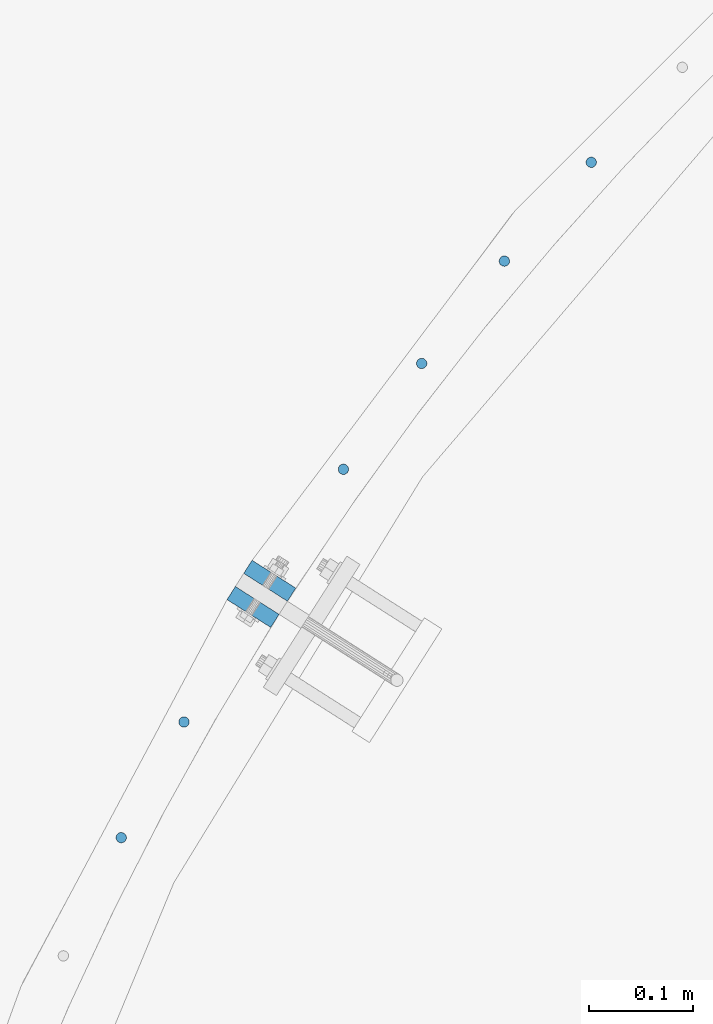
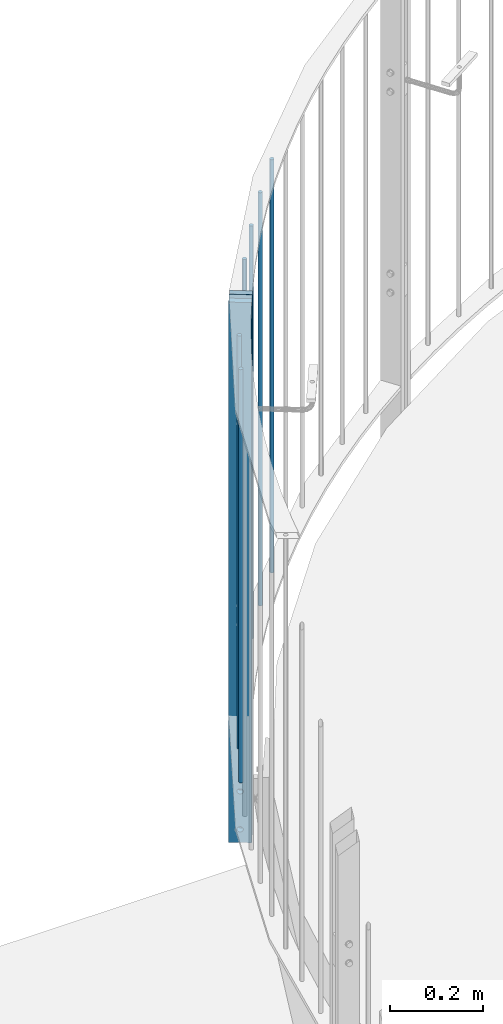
# One storey, part 63 of 296: 8 columns, 12 openings.
"""IFC2X3 building model written with IfcOpenShell, lengths in millimetres."""

from ifc_helpers import new_model, entity, si_unit, converted_unit, frame, frame_2d, origin, origin_with_axes, origin_2d, place, context, project, spatial, rectangle, circle, extrude, material, element, save


model = new_model("IFC2X3")

# Units and contexts
model_context = context("Model", 3, precision=1e-09, world=origin_with_axes())
ifc_project = project(units=[si_unit("LENGTHUNIT", "METRE", prefix="MILLI"), si_unit("AREAUNIT", "SQUARE_METRE"), si_unit("VOLUMEUNIT", "CUBIC_METRE"), converted_unit("PLANEANGLEUNIT", "DEGREE", entity("IfcPlaneAngleMeasure", 0.01745329), si_unit("PLANEANGLEUNIT", "RADIAN"), dimensions=[0, 0, 0, 0, 0, 0, 0])], contexts=[model_context])

# Site, building, storey
site_placement = place(None, origin_with_axes())
site = spatial("IfcSite", under=ifc_project, at=site_placement, Name="TZD-S?d | Treppenhausgel?nder", CompositionType="ELEMENT")
building_placement = place(site_placement, origin_with_axes())
building = spatial("IfcBuilding", under=site, at=building_placement, Name="Struktur 1", CompositionType="ELEMENT")
storey_placement = place(building_placement, origin_with_axes())
storey = spatial("IfcBuildingStorey", under=building, at=storey_placement, Name="Default Storey", CompositionType="ELEMENT", Elevation=0.0)

# Columns
ifc_material = material(Name="S235JR")
for number, where, z_axis, x_axis in (
    (1, (268.009652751, 1271.305762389, 2450.0), (0.0, 0.0, 1.0), (0.0, 1.0, 0.0)),
    (2, (328.618671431, 1382.861709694, 2450.0), (0.0, 0.0, 1.0), (0.0, 1.0, 0.0)),
    (3, (482.404589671, 1626.727106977, 2450.0), (0.0, 0.0, 1.0), (0.422618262, 0.906307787, 0.0)),
    (4, (557.894135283, 1728.803113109, 2450.0), (0.0, 0.0, 1.0), (0.422618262, 0.906307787, 0.0)),
    (5, (637.648869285, 1827.582488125, 2450.0), (0.0, 0.0, 1.0), (0.422618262, 0.906307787, 0.0)),
    (6, (721.525001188, 1922.887141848, 2450.0), (0.0, 0.0, 1.0), (0.422618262, 0.906307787, 0.0)),
):
    element("IfcColumn", number, at=place(None, frame(where, z_axis=z_axis, x_axis=x_axis)), inside=storey, material=ifc_material, Name="-", ObjectType="-", context=model_context, shape_type="SweptSolid", body=[
        extrude(circle(Radius=5.0, at=origin_2d()), origin(), (0.0, 0.0, 1.0), 1090.0),
    ])

# Column, openings
column_1_placement = place(None, frame((411.319071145, 1519.176700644, 2115.001), z_axis=(0.0, 0.0, -1.0), x_axis=(-0.537299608, -0.843391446, 0.0)))
column_1 = element("IfcColumn", 7, at=column_1_placement, inside=storey, material=ifc_material, Name="-", ObjectType="-", context=model_context, shape_type="SweptSolid", body=[
    extrude(rectangle(XDim=15.0, YDim=50.0, at=origin_2d()), origin(), (0.0, 0.0, -1.0), 1424.999),
])
opening_1_placement = place(column_1_placement, frame((-8.0, 0.0, -1129.999999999), z_axis=(1.0, 0.0, 0.0), x_axis=(0.0, -1.0, 0.0)))
element("IfcOpeningElement", 8, at=opening_1_placement, cuts=column_1, ObjectType="Opening", context=model_context, shape_type="SweptSolid", body=[
    extrude(circle(Radius=5.001, at=frame_2d((0.0, 25.0), x_axis=(1.0, 0.0))), origin(), (0.0, 0.0, 1.0), 16.0),
])
opening_2_placement = place(column_1_placement, frame((-8.0, 0.0, -1129.999999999), z_axis=(1.0, 0.0, 0.0), x_axis=(0.0, -1.0, 0.0)))
element("IfcOpeningElement", 9, at=opening_2_placement, cuts=column_1, ObjectType="Opening", context=model_context, shape_type="SweptSolid", body=[
    extrude(circle(Radius=5.001, at=frame_2d((0.0, -25.0), x_axis=(1.0, 0.0))), origin(), (0.0, 0.0, 1.0), 16.0),
])
opening_3_placement = place(column_1_placement, frame((-8.0, 0.0, -599.999999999), z_axis=(1.0, 0.0, 0.0), x_axis=(0.0, -1.0, 0.0)))
element("IfcOpeningElement", 10, at=opening_3_placement, cuts=column_1, ObjectType="Opening", context=model_context, shape_type="SweptSolid", body=[
    extrude(circle(Radius=5.001, at=frame_2d((0.0, 25.0), x_axis=(1.0, 0.0))), origin(), (0.0, 0.0, 1.0), 16.0),
])
opening_4_placement = place(column_1_placement, frame((-8.0, 0.0, -599.999999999), z_axis=(1.0, 0.0, 0.0), x_axis=(0.0, -1.0, 0.0)))
element("IfcOpeningElement", 11, at=opening_4_placement, cuts=column_1, ObjectType="Opening", context=model_context, shape_type="SweptSolid", body=[
    extrude(circle(Radius=5.001, at=frame_2d((0.0, -25.0), x_axis=(1.0, 0.0))), origin(), (0.0, 0.0, 1.0), 16.0),
])
opening_5_placement = place(column_1_placement, frame((-8.0, 0.0, -85.0), z_axis=(1.0, 0.0, 0.0), x_axis=(0.0, -1.0, 0.0)))
element("IfcOpeningElement", 12, at=opening_5_placement, cuts=column_1, ObjectType="Opening", context=model_context, shape_type="SweptSolid", body=[
    extrude(circle(Radius=7.001, at=frame_2d((0.0, 50.0), x_axis=(1.0, 0.0))), origin(), (0.0, 0.0, 1.0), 16.0),
])
opening_6_placement = place(column_1_placement, frame((-8.0, 0.0, -85.0), z_axis=(1.0, 0.0, 0.0), x_axis=(0.0, -1.0, 0.0)))
element("IfcOpeningElement", 13, at=opening_6_placement, cuts=column_1, ObjectType="Opening", context=model_context, shape_type="SweptSolid", body=[
    extrude(circle(Radius=7.001, at=frame_2d((0.0, -50.0), x_axis=(1.0, 0.0))), origin(), (0.0, 0.0, 1.0), 16.0),
])

column_2_placement = place(None, frame((395.200082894, 1493.87495727, 2115.001), z_axis=(0.0, 0.0, 1.0), x_axis=(0.537299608, 0.843391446, 0.0)))
column_2 = element("IfcColumn", 14, at=column_2_placement, inside=storey, material=ifc_material, Name="-", ObjectType="-", context=model_context, shape_type="SweptSolid", body=[
    extrude(rectangle(XDim=15.0, YDim=50.0, at=origin_2d()), origin(), (0.0, 0.0, 1.0), 1424.999),
])
opening_7_placement = place(column_2_placement, frame((8.0, 0.0, 599.999999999), z_axis=(-1.0, 0.0, 0.0), x_axis=(0.0, -1.0, 0.0)))
element("IfcOpeningElement", 15, at=opening_7_placement, cuts=column_2, ObjectType="Opening", context=model_context, shape_type="SweptSolid", body=[
    extrude(circle(Radius=5.001, at=frame_2d((0.0, 25.0), x_axis=(1.0, 0.0))), origin(), (0.0, 0.0, 1.0), 16.0),
])
opening_8_placement = place(column_2_placement, frame((8.0, 0.0, 599.999999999), z_axis=(-1.0, 0.0, 0.0), x_axis=(0.0, -1.0, 0.0)))
element("IfcOpeningElement", 16, at=opening_8_placement, cuts=column_2, ObjectType="Opening", context=model_context, shape_type="SweptSolid", body=[
    extrude(circle(Radius=5.001, at=frame_2d((0.0, -25.0), x_axis=(1.0, 0.0))), origin(), (0.0, 0.0, 1.0), 16.0),
])
opening_9_placement = place(column_2_placement, frame((8.0, 0.0, 1129.999999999), z_axis=(-1.0, 0.0, 0.0), x_axis=(0.0, -1.0, 0.0)))
element("IfcOpeningElement", 17, at=opening_9_placement, cuts=column_2, ObjectType="Opening", context=model_context, shape_type="SweptSolid", body=[
    extrude(circle(Radius=5.001, at=frame_2d((0.0, 25.0), x_axis=(1.0, 0.0))), origin(), (0.0, 0.0, 1.0), 16.0),
])
opening_10_placement = place(column_2_placement, frame((8.0, 0.0, 1129.999999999), z_axis=(-1.0, 0.0, 0.0), x_axis=(0.0, -1.0, 0.0)))
element("IfcOpeningElement", 18, at=opening_10_placement, cuts=column_2, ObjectType="Opening", context=model_context, shape_type="SweptSolid", body=[
    extrude(circle(Radius=5.001, at=frame_2d((0.0, -25.0), x_axis=(1.0, 0.0))), origin(), (0.0, 0.0, 1.0), 16.0),
])
opening_11_placement = place(column_2_placement, frame((8.0, 0.0, 85.0), z_axis=(-1.0, 0.0, 0.0), x_axis=(0.0, -1.0, 0.0)))
element("IfcOpeningElement", 19, at=opening_11_placement, cuts=column_2, ObjectType="Opening", context=model_context, shape_type="SweptSolid", body=[
    extrude(circle(Radius=7.001, at=frame_2d((0.0, 50.0), x_axis=(1.0, 0.0))), origin(), (0.0, 0.0, 1.0), 16.0),
])
opening_12_placement = place(column_2_placement, frame((8.0, 0.0, 85.0), z_axis=(-1.0, 0.0, 0.0), x_axis=(0.0, -1.0, 0.0)))
element("IfcOpeningElement", 20, at=opening_12_placement, cuts=column_2, ObjectType="Opening", context=model_context, shape_type="SweptSolid", body=[
    extrude(circle(Radius=7.001, at=frame_2d((0.0, -50.0), x_axis=(1.0, 0.0))), origin(), (0.0, 0.0, 1.0), 16.0),
])

save(model, "model.ifc")
